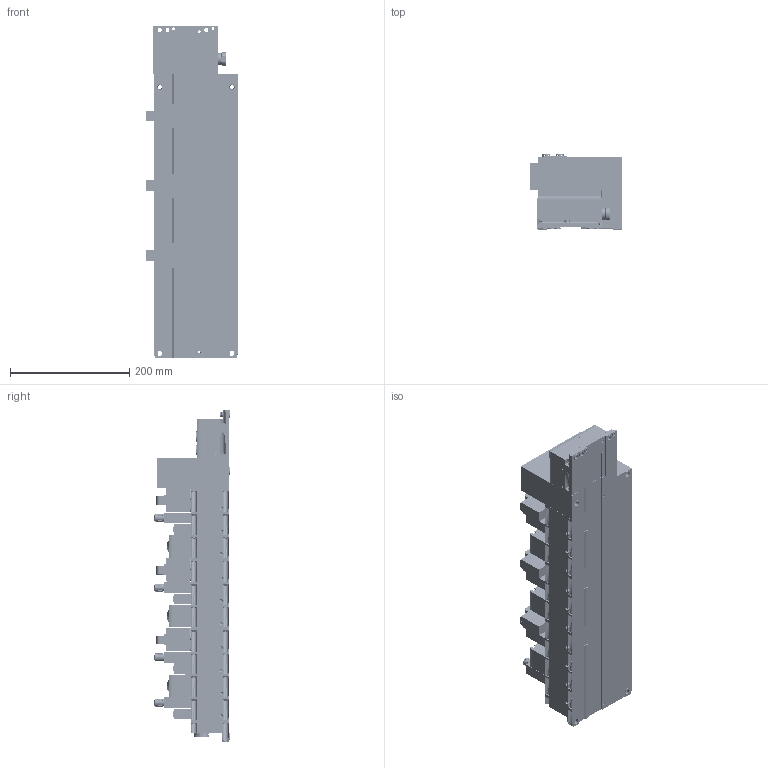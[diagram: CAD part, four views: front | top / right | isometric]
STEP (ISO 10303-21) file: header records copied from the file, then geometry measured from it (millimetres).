
FILE_DESCRIPTION( ( 'STEP AP214' ), '1' );
FILE_NAME( 'p:/temp/worker_1089/temp/exporttempdir_1632_667_yoWHj/format_0/Configuration04_8073100_51E-F33GCQP-RC.stp', '2020-07-23T15:21:03', ( 'License CC BY-ND 4.0' ), ( 'CADENAS' ), ' ', 'PARTsolutions', ' ' );
FILE_SCHEMA( ( 'AUTOMOTIVE_DESIGN { 1 0 10303 214 1 1 1 1 }' ) );
Length unit declared in the file: millimetre
Products named in the file (18): 8073100 51E-F33GCQP-RC 46P-B-NSAB-PSPMNGWZQZAUSWYLYQTLPSPMNGWZQZAUSWYLYQTLPSPMNGWZQZAYQTLUWYLNGWA-JLJLJLJL; HI_8068240 VABA-S6-1-X2-F1-CB---(EPL); HI_8068610 VABV-S6-1Q-G38-CB-T5---(VKPL_0); _8067407 VABF-S6-1-P5A4S1YE-G12-1T5-PA---(high); _174308 B-M5-B---(VCB); _8067932 VABV-S4-2HS-G18-CB-2T2---(VKPL_0); HI_8033450 VSVA-B-B52-ZTR-A2-1T1L---(VT462); _4105147 VAMC-B-S6-CTR---(vtsa_kappe); HI_539213 VABB-S4-2-WT---(VT465); HI_8104044 VABF-S6-1-P8A7-G12-CB1---(VT46); HI_8090343 VABF-S6-1-P8A7-G12-CB-DECKEL---(VT46); HI_8104042 VABF-S6-1-P8A7-G12-CB---(VT46); HI_539234 VABE-S6-1R-G12---(PL); _3571 B-1/2---(VCBE); HI_550212 CPX-M-EPL-EV---(EPL_51E); HI_550208 CPX-M-GE-EV-S-7/8-5POL---(EV); HI_548755 CPX-FB33---(EA); HI_548757 CPX-AK-P---(g_2_1)
Assembly tree (42 placements, depth 2):
  8073100 51E-F33GCQP-RC 46P-B-NSAB-PSPMNGWZQZAUSWYLYQTLPSPMNGWZQZAUSWYLYQTLPSPMNGWZQZAYQTLUWYLNGWA-JLJLJLJL
    HI_8068240 VABA-S6-1-X2-F1-CB---(EPL)
    HI_8068610 VABV-S6-1Q-G38-CB-T5---(VKPL_0)  x3
    _8067407 VABF-S6-1-P5A4S1YE-G12-1T5-PA---(high)  x3
    _174308 B-M5-B---(VCB)  x3
    _8067932 VABV-S4-2HS-G18-CB-2T2---(VKPL_0)  x4
    HI_8033450 VSVA-B-B52-ZTR-A2-1T1L---(VT462)  x4
    _4105147 VAMC-B-S6-CTR---(vtsa_kappe)  x8
    HI_539213 VABB-S4-2-WT---(VT465)  x4
    HI_8104044 VABF-S6-1-P8A7-G12-CB1---(VT46)  x2
    HI_8090343 VABF-S6-1-P8A7-G12-CB-DECKEL---(VT46)  x3
    HI_8104042 VABF-S6-1-P8A7-G12-CB---(VT46)
    HI_539234 VABE-S6-1R-G12---(PL)
    _3571 B-1/2---(VCBE)
    HI_550212 CPX-M-EPL-EV---(EPL_51E)
    HI_550208 CPX-M-GE-EV-S-7/8-5POL---(EV)
    HI_548755 CPX-FB33---(EA)
    HI_548757 CPX-AK-P---(g_2_1)
Bounding box: 154.9 x 126.04 x 556.8 mm (x, y, z)
Volume: 6257514.9 mm3; surface area: 909202.5 mm2
Topology: 42 solids, 42 shells, 4966 faces, 12754 edges, 8309 vertices
Faces by surface type: plane 2731, cylinder 1649, cone 488, torus 79, bspline 16, sphere 3
Full cylindrical faces by diameter (mm): 1.1 x12, 2 x5, 2.3 x2, 2.459 x4, 2.8 x2, 3 x6, 3.2 x8, 3.242 x34, 3.3 x20, 4 x21, 4.134 x73, 4.3 x13, 4.5 x1, 5 x65, 5.2 x32, 5.5 x16, 5.6 x2, 5.8 x8, 6 x12, 6.4 x3, 6.5 x8, 6.6 x6, 7.2 x6, 7.5 x4, 7.6 x8, 8 x18, 8.2 x4, 8.3 x3, 8.5 x14, 8.566 x16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
Entity records: 78142 total; most frequent: CARTESIAN_POINT 11584, DIRECTION 10621, ORIENTED_EDGE 9294, EDGE_CURVE 4647, AXIS2_PLACEMENT_3D 3965, VERTEX_POINT 3342, EDGE_LOOP 2934, LINE 2691
